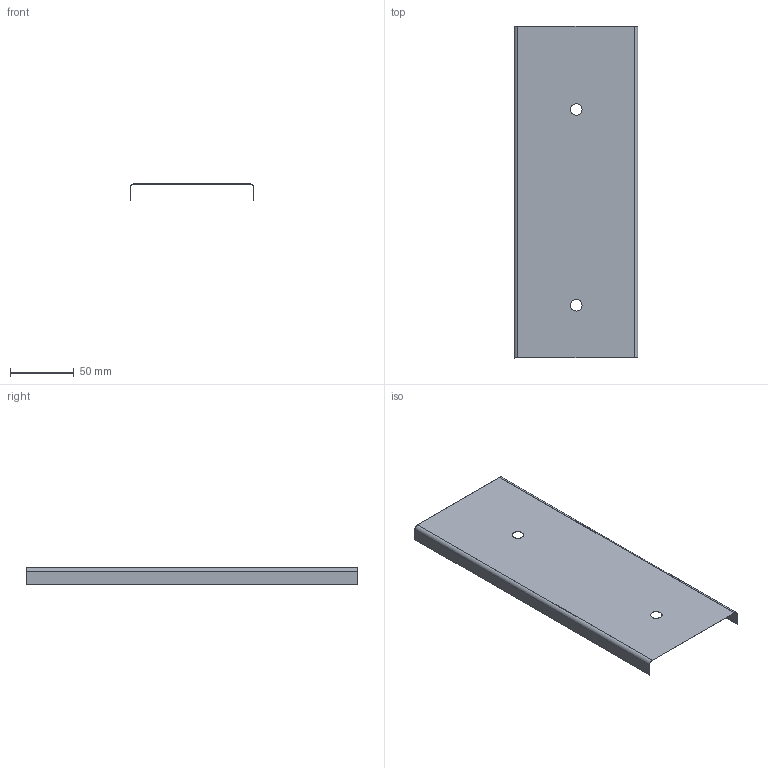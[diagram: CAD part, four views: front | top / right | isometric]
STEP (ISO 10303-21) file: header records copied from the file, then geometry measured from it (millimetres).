
FILE_DESCRIPTION(('FreeCAD Model'),'2;1');
FILE_NAME('/home/jwright/Documents/Mach_30/Shepard_v1.1_CAD/STEP_Files/Shepard_v1.0_Rail_Shield_RS03.step','2013-02-05T00:37:44',('FreeCAD'),('FreeCAD' ),'Open CASCADE STEP processor 6.5','FreeCAD','Unknown');
FILE_SCHEMA(('AUTOMOTIVE_DESIGN_CC2 { 1 2 10303 214 -1 1 5 4 }'));
Length unit declared in the file: millimetre
Products named in the file (1): Open CASCADE STEP translator 6.5 1
Bounding box: 97.16 x 260.35 x 12.7 mm (x, y, z)
Surface area: 62203.1 mm2 (no closed solid volume)
Topology: 0 solids, 1 shells, 15 faces, 44 edges, 30 vertices
Faces by surface type: plane 9, cylinder 6
Full cylindrical faces by diameter (mm): 8.992 x2
Entity records: 1092 total; most frequent: CARTESIAN_POINT 178, DIRECTION 178, LINE 98, VECTOR 98, ORIENTED_EDGE 86, PCURVE 86, DEFINITIONAL_REPRESENTATION 86, EDGE_CURVE 44
